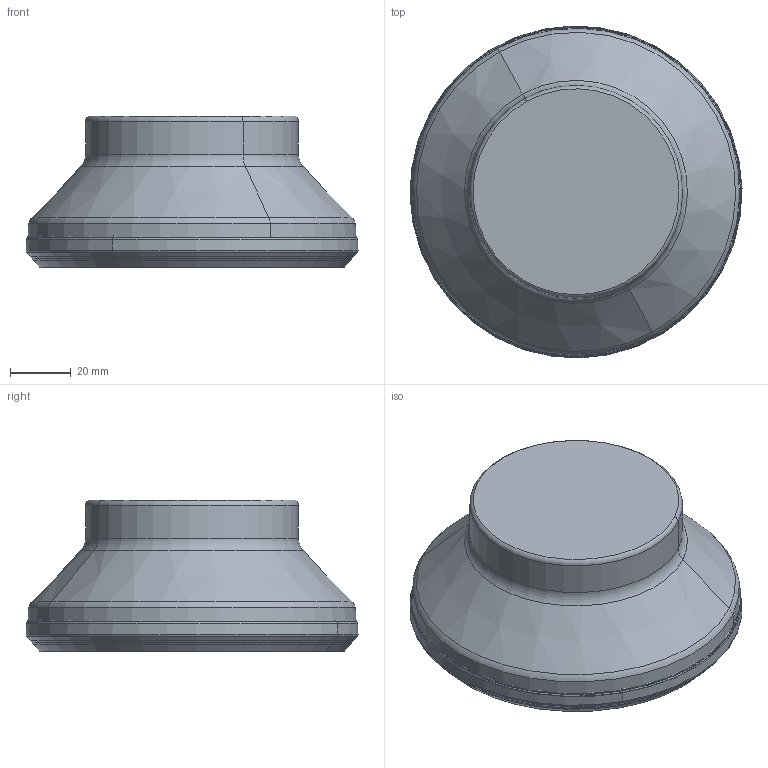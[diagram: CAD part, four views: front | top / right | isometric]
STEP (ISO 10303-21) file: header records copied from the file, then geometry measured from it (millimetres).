
FILE_DESCRIPTION(('CATIA V5 STEP','CAx-IF Rec.Pracs.--- Model Styling and Organization---1.2---2011-12-15'),'2;1');
FILE_NAME('C:\Users\bsharad\Desktop\3106529 - IQ845 FSY D100-10-32-R07.stp','2013-10-15T11:15:39+00:00',('none'),('none'),'CATIA Version 5 Release 21 SP 5 (IN-10)','CATIA V5 STEP AP214','none');
FILE_SCHEMA(('AUTOMOTIVE_DESIGN { 1 0 10303 214 1 1 1 1 }'));
Length unit declared in the file: millimetre
Products named in the file (1): 3106529 IQ845 FSY D100-10-32-R07
Bounding box: 109.21 x 109.21 x 50 mm (x, y, z)
Volume: 288644.5 mm3; surface area: 43554.9 mm2
Topology: 2 solids, 2 shells, 214 faces, 426 edges, 216 vertices
Faces by surface type: cone 154, torus 46, revolution 6, cylinder 4, plane 4
Entity records: 5843 total; most frequent: CARTESIAN_POINT 1448, ORIENTED_EDGE 852, DIRECTION 805, AXIS2_PLACEMENT_3D 452, EDGE_CURVE 426, CIRCLE 261, EDGE_LOOP 216, VERTEX_POINT 216
